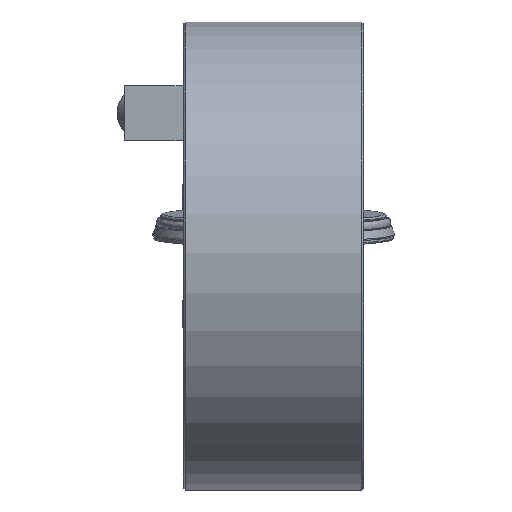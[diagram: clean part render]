
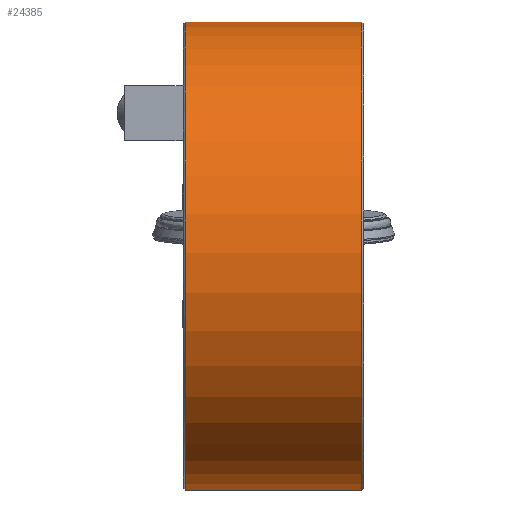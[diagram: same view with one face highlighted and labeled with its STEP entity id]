
A CAD part, left-side view. The second image highlights one B-rep face of the part: STEP entity #24385.
In plain terms, the highlighted free-form (B-spline) face has degree [2, 1] with [7, 2] control points.
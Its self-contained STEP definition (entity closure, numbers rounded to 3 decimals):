
#23194=CARTESIAN_POINT('V19',(49.5,65.0,0.0));
#23195=VERTEX_POINT('V19',#23194);
#23219=CARTESIAN_POINT('E28',(49.5,65.0,0.0));
#23220=CARTESIAN_POINT('E28',(49.5,65.,
   -112.583));
#23221=CARTESIAN_POINT('E28',(49.5,-32.5,
   -56.292));
#23222=CARTESIAN_POINT('E28',(49.5,
   -130.,0.));
#23223=CARTESIAN_POINT('E28',(49.5,-32.5,
   56.292));
#23224=CARTESIAN_POINT('E28',(49.5,65.0,
   112.583));
#23225=CARTESIAN_POINT('E28',(49.5,65.0,0.0));
#23233=(BOUNDED_CURVE()B_SPLINE_CURVE(2,(#23219,#23220,#23221,
   #23222,#23223,#23224,#23225),.CIRCULAR_ARC.,.T.,.U.)
   B_SPLINE_CURVE_WITH_KNOTS((3,2,2,3),(0.0,4.595,
   9.19,13.786),.UNSPECIFIED.)CURVE()
   GEOMETRIC_REPRESENTATION_ITEM()RATIONAL_B_SPLINE_CURVE((1.0,
   0.5,1.0,0.5,1.0,0.5,1.0)
   )REPRESENTATION_ITEM('E28'));
#23234=EDGE_CURVE('E28',#23195,#23195,#23233,.T.);
#24209=CARTESIAN_POINT('V17',(42.03,65.,
   0.0));
#24210=VERTEX_POINT('V17',#24209);
#24211=CARTESIAN_POINT('V3',(42.03,52.5,
   38.324));
#24212=VERTEX_POINT('V3',#24211);
#24213=CARTESIAN_POINT('E23',(42.03,65.,
   0.0));
#24214=CARTESIAN_POINT('E23',(42.03,65.,
   21.201));
#24215=CARTESIAN_POINT('E23',(42.03,52.5,
   38.324));
#24223=(BOUNDED_CURVE()B_SPLINE_CURVE(2,(#24213,#24214,#24215),
   .CIRCULAR_ARC.,.F.,.U.)CURVE()GEOMETRIC_REPRESENTATION_ITEM()
   QUASI_UNIFORM_CURVE()RATIONAL_B_SPLINE_CURVE((1.0,
   0.842,0.784))REPRESENTATION_ITEM('E23'));
#24224=EDGE_CURVE('E23',#24210,#24212,#24223,.T.);
#24226=CARTESIAN_POINT('V2',(42.03,52.5,
   -38.324));
#24227=VERTEX_POINT('V2',#24226);
#24233=CARTESIAN_POINT('E24',(42.03,52.5,
   -38.324));
#24234=CARTESIAN_POINT('E24',(42.03,65.,
   -21.201));
#24235=CARTESIAN_POINT('E24',(42.03,65.,
   0.0));
#24243=(BOUNDED_CURVE()B_SPLINE_CURVE(2,(#24233,#24234,#24235),
   .CIRCULAR_ARC.,.F.,.U.)CURVE()GEOMETRIC_REPRESENTATION_ITEM()
   QUASI_UNIFORM_CURVE()RATIONAL_B_SPLINE_CURVE((0.784,
   0.842,1.0))REPRESENTATION_ITEM('E24'));
#24244=EDGE_CURVE('E24',#24227,#24210,#24243,.T.);
#24254=CARTESIAN_POINT('V1',(7.97,52.5,
   -38.324));
#24255=VERTEX_POINT('V1',#24254);
#24256=CARTESIAN_POINT('E1',(7.97,52.5,
   -38.324));
#24257=CARTESIAN_POINT('E1',(42.03,52.5,
   -38.324));
#24258=QUASI_UNIFORM_CURVE('E1',1,(#24256,#24257),.POLYLINE_FORM.,
   .F.,.U.);
#24259=EDGE_CURVE('E1',#24255,#24227,#24258,.T.);
#24262=CARTESIAN_POINT('V4',(7.97,52.5,
   38.324));
#24263=VERTEX_POINT('V4',#24262);
#24264=CARTESIAN_POINT('E3',(42.03,52.5,
   38.324));
#24265=CARTESIAN_POINT('E3',(7.97,52.5,
   38.324));
#24266=QUASI_UNIFORM_CURVE('E3',1,(#24264,#24265),.POLYLINE_FORM.,
   .F.,.U.);
#24267=EDGE_CURVE('E3',#24212,#24263,#24266,.T.);
#24291=CARTESIAN_POINT('V18',(7.97,65.,
   0.0));
#24292=VERTEX_POINT('V18',#24291);
#24293=CARTESIAN_POINT('E25',(7.97,65.,
   0.0));
#24294=CARTESIAN_POINT('E25',(7.97,65.,
   -21.201));
#24295=CARTESIAN_POINT('E25',(7.97,52.5,
   -38.324));
#24303=(BOUNDED_CURVE()B_SPLINE_CURVE(2,(#24293,#24294,#24295),
   .CIRCULAR_ARC.,.F.,.U.)CURVE()GEOMETRIC_REPRESENTATION_ITEM()
   QUASI_UNIFORM_CURVE()RATIONAL_B_SPLINE_CURVE((1.0,
   0.842,0.784))REPRESENTATION_ITEM('E25'));
#24304=EDGE_CURVE('E25',#24292,#24255,#24303,.T.);
#24307=CARTESIAN_POINT('E26',(7.97,52.5,
   38.324));
#24308=CARTESIAN_POINT('E26',(7.97,65.,
   21.201));
#24309=CARTESIAN_POINT('E26',(7.97,65.,
   0.0));
#24317=(BOUNDED_CURVE()B_SPLINE_CURVE(2,(#24307,#24308,#24309),
   .CIRCULAR_ARC.,.F.,.U.)CURVE()GEOMETRIC_REPRESENTATION_ITEM()
   QUASI_UNIFORM_CURVE()RATIONAL_B_SPLINE_CURVE((0.784,
   0.842,1.0))REPRESENTATION_ITEM('E26'));
#24318=EDGE_CURVE('E26',#24263,#24292,#24317,.T.);
#24323=CARTESIAN_POINT('F13',(0.5,65.0,0.0));
#24324=CARTESIAN_POINT('F13',(0.5,65.0,
   112.583));
#24325=CARTESIAN_POINT('F13',(0.5,-32.5,
   56.292));
#24326=CARTESIAN_POINT('F13',(0.5,-130.,
   0.));
#24327=CARTESIAN_POINT('F13',(0.5,-32.5,
   -56.292));
#24328=CARTESIAN_POINT('F13',(0.5,65.,
   -112.583));
#24329=CARTESIAN_POINT('F13',(0.5,65.0,0.0));
#24330=CARTESIAN_POINT('F13',(49.5,65.0,0.0));
#24331=CARTESIAN_POINT('F13',(49.5,65.0,
   112.583));
#24332=CARTESIAN_POINT('F13',(49.5,-32.5,
   56.292));
#24333=CARTESIAN_POINT('F13',(49.5,
   -130.,0.));
#24334=CARTESIAN_POINT('F13',(49.5,-32.5,
   -56.292));
#24335=CARTESIAN_POINT('F13',(49.5,65.,
   -112.583));
#24336=CARTESIAN_POINT('F13',(49.5,65.0,0.0));
#24344=(BOUNDED_SURFACE()B_SPLINE_SURFACE(2,1,((#24323,#24330),(
   #24324,#24331),(#24325,#24332),(#24326,#24333),(#24327,
   #24334),(#24328,#24335),(#24329,#24336)),.CYLINDRICAL_SURF.,
   .T.,.F.,.U.)B_SPLINE_SURFACE_WITH_KNOTS((3,2,2,3),(2,2),(0.0,
   4.595,9.19,13.786),(0.0,1.0),
   .UNSPECIFIED.)GEOMETRIC_REPRESENTATION_ITEM()
   RATIONAL_B_SPLINE_SURFACE(((1.0,1.0),(0.5,
   0.5),(1.0,1.0),(0.5,
   0.5),(1.0,1.0),(0.5,
   0.5),(1.0,1.0)))REPRESENTATION_ITEM('F13')SURFACE(
   ));
#24345=ORIENTED_EDGE('E25',*,*,#24304,.F.);
#24346=CARTESIAN_POINT('V20',(0.5,65.0,0.0));
#24347=VERTEX_POINT('V20',#24346);
#24348=CARTESIAN_POINT('E29',(7.97,65.0,0.0));
#24349=CARTESIAN_POINT('E29',(0.5,65.0,0.0));
#24350=B_SPLINE_CURVE_WITH_KNOTS('E29',1,(#24348,#24349),
   .POLYLINE_FORM.,.F.,.U.,(2,2),(0.848,1.0),
   .UNSPECIFIED.);
#24351=EDGE_CURVE('E29',#24292,#24347,#24350,.T.);
#24352=ORIENTED_EDGE('E29',*,*,#24351,.T.);
#24353=CARTESIAN_POINT('E30',(0.5,65.0,0.0));
#24354=CARTESIAN_POINT('E30',(0.5,65.,
   -112.583));
#24355=CARTESIAN_POINT('E30',(0.5,-32.5,
   -56.292));
#24356=CARTESIAN_POINT('E30',(0.5,-130.,
   0.));
#24357=CARTESIAN_POINT('E30',(0.5,-32.5,
   56.292));
#24358=CARTESIAN_POINT('E30',(0.5,65.0,
   112.583));
#24359=CARTESIAN_POINT('E30',(0.5,65.0,0.0));
#24367=(BOUNDED_CURVE()B_SPLINE_CURVE(2,(#24353,#24354,#24355,
   #24356,#24357,#24358,#24359),.CIRCULAR_ARC.,.T.,.U.)
   B_SPLINE_CURVE_WITH_KNOTS((3,2,2,3),(0.0,317.209,
   634.418,951.627),.UNSPECIFIED.)CURVE()
   GEOMETRIC_REPRESENTATION_ITEM()RATIONAL_B_SPLINE_CURVE((1.0,
   0.5,1.0,0.5,1.0,0.5,1.0)
   )REPRESENTATION_ITEM('E30'));
#24368=EDGE_CURVE('E30',#24347,#24347,#24367,.T.);
#24369=ORIENTED_EDGE('E30',*,*,#24368,.T.);
#24370=ORIENTED_EDGE('E29',*,*,#24351,.F.);
#24371=ORIENTED_EDGE('F12',*,*,#24318,.F.);
#24372=ORIENTED_EDGE('E3',*,*,#24267,.F.);
#24373=ORIENTED_EDGE('E23',*,*,#24224,.F.);
#24374=CARTESIAN_POINT('E27',(49.5,65.0,0.0));
#24375=CARTESIAN_POINT('E27',(42.03,65.0,0.0));
#24376=B_SPLINE_CURVE_WITH_KNOTS('E27',1,(#24374,#24375),
   .POLYLINE_FORM.,.F.,.U.,(2,2),(0.0,0.152),
   .UNSPECIFIED.);
#24377=EDGE_CURVE('E27',#23195,#24210,#24376,.T.);
#24378=ORIENTED_EDGE('E27',*,*,#24377,.F.);
#24379=ORIENTED_EDGE('F15',*,*,#23234,.F.);
#24380=ORIENTED_EDGE('E27',*,*,#24377,.T.);
#24381=ORIENTED_EDGE('F11',*,*,#24244,.F.);
#24382=ORIENTED_EDGE('E1',*,*,#24259,.F.);
#24383=EDGE_LOOP('F13',(#24345,#24352,#24369,#24370,#24371,#24372,
   #24373,#24378,#24379,#24380,#24381,#24382));
#24384=FACE_OUTER_BOUND('F13',#24383,.F.);
#24385=ADVANCED_FACE('F13',(#24384),#24344,.T.);
